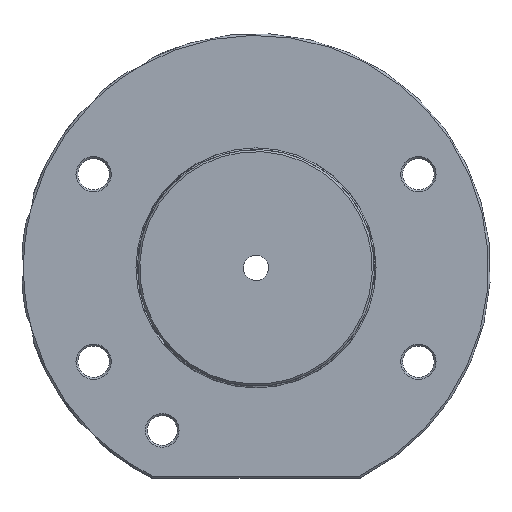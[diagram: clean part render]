
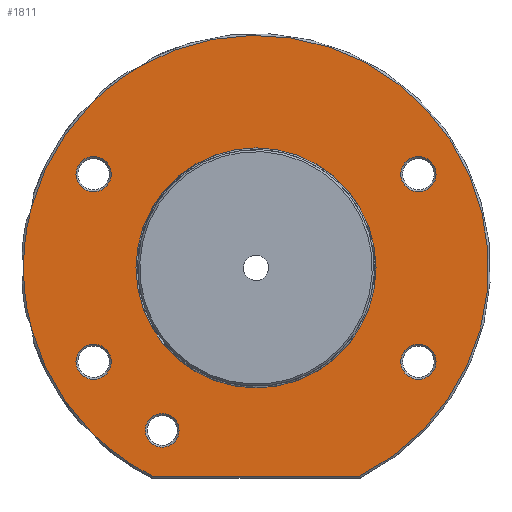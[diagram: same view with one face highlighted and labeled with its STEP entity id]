
A CAD part, top view. The second image highlights one B-rep face of the part: STEP entity #1811.
In plain terms, the highlighted planar face has unit normal (0, 0, 1).
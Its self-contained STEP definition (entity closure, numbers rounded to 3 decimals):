
#80=FACE_BOUND('',#528,.T.);
#81=FACE_BOUND('',#529,.T.);
#82=FACE_BOUND('',#530,.T.);
#83=FACE_BOUND('',#531,.T.);
#84=FACE_BOUND('',#532,.T.);
#85=FACE_BOUND('',#533,.T.);
#112=PLANE('',#2020);
#224=LINE('',#3173,#295);
#295=VECTOR('',#2438,10.);
#409=FACE_OUTER_BOUND('',#527,.T.);
#527=EDGE_LOOP('',(#1384,#1385,#1386,#1387,#1388,#1389,#1390,#1391));
#528=EDGE_LOOP('',(#1392));
#529=EDGE_LOOP('',(#1393));
#530=EDGE_LOOP('',(#1394));
#531=EDGE_LOOP('',(#1395));
#532=EDGE_LOOP('',(#1396));
#533=EDGE_LOOP('',(#1397));
#613=CIRCLE('',#1902,32.);
#647=CIRCLE('',#1958,4.7);
#649=CIRCLE('',#1962,4.7);
#651=CIRCLE('',#1966,4.7);
#653=CIRCLE('',#1970,4.7);
#681=CIRCLE('',#2021,62.);
#682=CIRCLE('',#2022,62.);
#683=CIRCLE('',#2023,62.);
#684=CIRCLE('',#2024,62.);
#685=CIRCLE('',#2025,62.);
#686=CIRCLE('',#2026,62.);
#687=CIRCLE('',#2027,62.);
#688=CIRCLE('',#2028,4.5);
#737=VERTEX_POINT('',#2684);
#783=VERTEX_POINT('',#2892);
#785=VERTEX_POINT('',#2900);
#787=VERTEX_POINT('',#2908);
#789=VERTEX_POINT('',#2916);
#825=VERTEX_POINT('',#3171);
#826=VERTEX_POINT('',#3172);
#827=VERTEX_POINT('',#3174);
#828=VERTEX_POINT('',#3176);
#829=VERTEX_POINT('',#3178);
#830=VERTEX_POINT('',#3180);
#831=VERTEX_POINT('',#3182);
#832=VERTEX_POINT('',#3184);
#833=VERTEX_POINT('',#3187);
#903=EDGE_CURVE('',#737,#737,#613,.T.);
#962=EDGE_CURVE('',#783,#783,#647,.T.);
#966=EDGE_CURVE('',#785,#785,#649,.T.);
#970=EDGE_CURVE('',#787,#787,#651,.T.);
#974=EDGE_CURVE('',#789,#789,#653,.T.);
#1028=EDGE_CURVE('',#825,#826,#224,.T.);
#1029=EDGE_CURVE('',#827,#825,#681,.T.);
#1030=EDGE_CURVE('',#828,#827,#682,.T.);
#1031=EDGE_CURVE('',#829,#828,#683,.T.);
#1032=EDGE_CURVE('',#830,#829,#684,.T.);
#1033=EDGE_CURVE('',#831,#830,#685,.T.);
#1034=EDGE_CURVE('',#832,#831,#686,.T.);
#1035=EDGE_CURVE('',#826,#832,#687,.T.);
#1036=EDGE_CURVE('',#833,#833,#688,.T.);
#1384=ORIENTED_EDGE('',*,*,#1028,.F.);
#1385=ORIENTED_EDGE('',*,*,#1029,.F.);
#1386=ORIENTED_EDGE('',*,*,#1030,.F.);
#1387=ORIENTED_EDGE('',*,*,#1031,.F.);
#1388=ORIENTED_EDGE('',*,*,#1032,.F.);
#1389=ORIENTED_EDGE('',*,*,#1033,.F.);
#1390=ORIENTED_EDGE('',*,*,#1034,.F.);
#1391=ORIENTED_EDGE('',*,*,#1035,.F.);
#1392=ORIENTED_EDGE('',*,*,#974,.F.);
#1393=ORIENTED_EDGE('',*,*,#966,.F.);
#1394=ORIENTED_EDGE('',*,*,#903,.F.);
#1395=ORIENTED_EDGE('',*,*,#962,.F.);
#1396=ORIENTED_EDGE('',*,*,#970,.F.);
#1397=ORIENTED_EDGE('',*,*,#1036,.F.);
#1811=ADVANCED_FACE('',(#409,#80,#81,#82,#83,#84,#85),#112,.T.);
#1902=AXIS2_PLACEMENT_3D('',#2685,#2156,#2157);
#1958=AXIS2_PLACEMENT_3D('',#2893,#2288,#2289);
#1962=AXIS2_PLACEMENT_3D('',#2901,#2298,#2299);
#1966=AXIS2_PLACEMENT_3D('',#2909,#2308,#2309);
#1970=AXIS2_PLACEMENT_3D('',#2917,#2318,#2319);
#2020=AXIS2_PLACEMENT_3D('',#3170,#2436,#2437);
#2021=AXIS2_PLACEMENT_3D('',#3175,#2439,#2440);
#2022=AXIS2_PLACEMENT_3D('',#3177,#2441,#2442);
#2023=AXIS2_PLACEMENT_3D('',#3179,#2443,#2444);
#2024=AXIS2_PLACEMENT_3D('',#3181,#2445,#2446);
#2025=AXIS2_PLACEMENT_3D('',#3183,#2447,#2448);
#2026=AXIS2_PLACEMENT_3D('',#3185,#2449,#2450);
#2027=AXIS2_PLACEMENT_3D('',#3186,#2451,#2452);
#2028=AXIS2_PLACEMENT_3D('',#3188,#2453,#2454);
#2156=DIRECTION('center_axis',(0.,0.,1.));
#2157=DIRECTION('ref_axis',(-1.,0.,0.));
#2288=DIRECTION('center_axis',(0.,0.,1.));
#2289=DIRECTION('ref_axis',(-1.,0.,0.));
#2298=DIRECTION('center_axis',(0.,0.,1.));
#2299=DIRECTION('ref_axis',(-1.,0.,0.));
#2308=DIRECTION('center_axis',(0.,0.,1.));
#2309=DIRECTION('ref_axis',(-1.,0.,0.));
#2318=DIRECTION('center_axis',(0.,0.,1.));
#2319=DIRECTION('ref_axis',(-1.,0.,0.));
#2436=DIRECTION('center_axis',(0.,0.,1.));
#2437=DIRECTION('ref_axis',(1.,0.,0.));
#2438=DIRECTION('',(-1.,0.,0.));
#2439=DIRECTION('center_axis',(0.,0.,-1.));
#2440=DIRECTION('ref_axis',(-1.,0.,0.));
#2441=DIRECTION('center_axis',(0.,0.,-1.));
#2442=DIRECTION('ref_axis',(-1.,0.,0.));
#2443=DIRECTION('center_axis',(0.,0.,-1.));
#2444=DIRECTION('ref_axis',(-1.,0.,0.));
#2445=DIRECTION('center_axis',(0.,0.,-1.));
#2446=DIRECTION('ref_axis',(-1.,0.,0.));
#2447=DIRECTION('center_axis',(0.,0.,-1.));
#2448=DIRECTION('ref_axis',(-1.,0.,0.));
#2449=DIRECTION('center_axis',(0.,0.,-1.));
#2450=DIRECTION('ref_axis',(-1.,0.,0.));
#2451=DIRECTION('center_axis',(0.,0.,-1.));
#2452=DIRECTION('ref_axis',(-1.,0.,0.));
#2453=DIRECTION('center_axis',(0.,0.,1.));
#2454=DIRECTION('ref_axis',(-1.,0.,0.));
#2684=CARTESIAN_POINT('',(32.,0.,16.));
#2685=CARTESIAN_POINT('Origin',(0.,0.,16.));
#2892=CARTESIAN_POINT('',(-38.601,25.,16.));
#2893=CARTESIAN_POINT('Origin',(-43.301,25.,16.));
#2900=CARTESIAN_POINT('',(-38.601,-25.,16.));
#2901=CARTESIAN_POINT('Origin',(-43.301,-25.,16.));
#2908=CARTESIAN_POINT('',(48.001,-25.,16.));
#2909=CARTESIAN_POINT('Origin',(43.301,-25.,16.));
#2916=CARTESIAN_POINT('',(48.001,25.,16.));
#2917=CARTESIAN_POINT('Origin',(43.301,25.,16.));
#3170=CARTESIAN_POINT('Origin',(0.,0.,16.));
#3171=CARTESIAN_POINT('',(27.636,-55.5,16.));
#3172=CARTESIAN_POINT('',(-27.636,-55.5,16.));
#3173=CARTESIAN_POINT('',(16.828,-55.5,16.));
#3174=CARTESIAN_POINT('',(-31.,53.694,16.));
#3175=CARTESIAN_POINT('Origin',(0.,0.,16.));
#3176=CARTESIAN_POINT('',(-43.841,43.841,16.));
#3177=CARTESIAN_POINT('Origin',(0.,0.,16.));
#3178=CARTESIAN_POINT('',(-59.887,16.047,16.));
#3179=CARTESIAN_POINT('Origin',(0.,0.,16.));
#3180=CARTESIAN_POINT('',(-62.,0.,16.));
#3181=CARTESIAN_POINT('Origin',(0.,0.,16.));
#3182=CARTESIAN_POINT('',(-59.887,-16.047,16.));
#3183=CARTESIAN_POINT('Origin',(0.,0.,16.));
#3184=CARTESIAN_POINT('',(-43.841,-43.841,16.));
#3185=CARTESIAN_POINT('Origin',(0.,0.,16.));
#3186=CARTESIAN_POINT('Origin',(0.,0.,16.));
#3187=CARTESIAN_POINT('',(-20.5,-43.301,16.));
#3188=CARTESIAN_POINT('Origin',(-25.,-43.301,16.));
